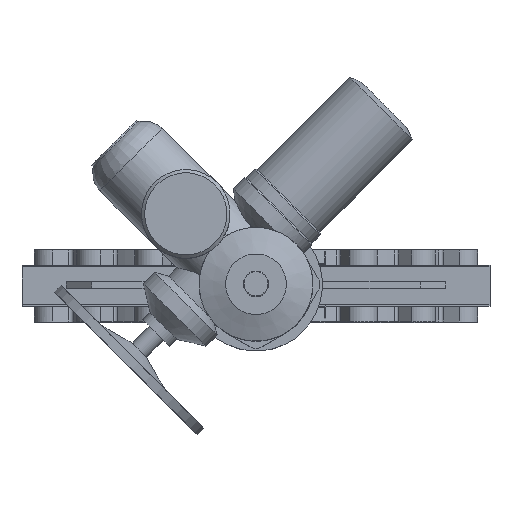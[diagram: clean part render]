
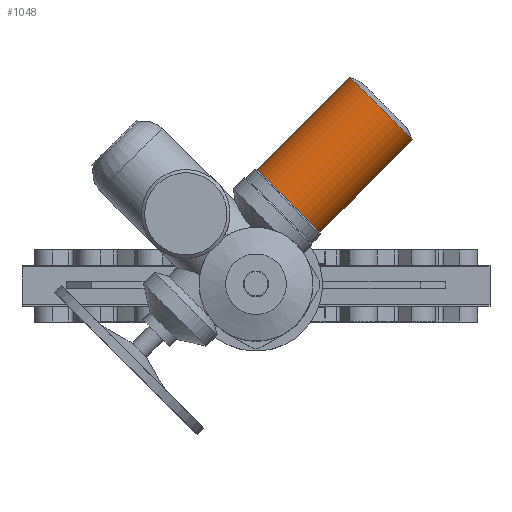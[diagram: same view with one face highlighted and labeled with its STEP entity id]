
A CAD part, top view. The second image highlights one B-rep face of the part: STEP entity #1048.
In plain terms, the highlighted cylindrical face has radius 70 mm (diameter 140 mm), a full revolution.
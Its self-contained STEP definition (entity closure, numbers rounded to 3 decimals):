
#1048=ADVANCED_FACE('',(#2110,#2112),#2114,.T.);
#2110=FACE_OUTER_BOUND('',#2111,.T.);
#2111=EDGE_LOOP('',(#5259));
#2112=FACE_OUTER_BOUND('',#2113,.T.);
#2113=EDGE_LOOP('',(#5260));
#2114=CYLINDRICAL_SURFACE('',#2115,70.);
#2115=AXIS2_PLACEMENT_3D('',#2116,#2117,#2118);
#2116=CARTESIAN_POINT('',(197.792,278.403,1588.));
#2117=DIRECTION('',(-0.707,-0.707,0.));
#2118=DIRECTION('',(0.,0.,1.));
#5259=ORIENTED_EDGE('',*,*,#7695,.T.);
#5260=ORIENTED_EDGE('',*,*,#7693,.F.);
#7693=EDGE_CURVE('',#9604,#9604,#9605,.T.);
#7695=EDGE_CURVE('',#9608,#9608,#9609,.T.);
#9604=VERTEX_POINT('',#12311);
#9605=CIRCLE('',#12312,70.);
#9608=VERTEX_POINT('',#12321);
#9609=CIRCLE('',#12322,70.);
#12311=CARTESIAN_POINT('',(51.482,132.093,1658.));
#12312=AXIS2_PLACEMENT_3D('',#12313,#12314,#12315);
#12313=CARTESIAN_POINT('',(51.482,132.093,1588.));
#12314=DIRECTION('',(-0.707,-0.707,0.));
#12315=DIRECTION('',(0.,0.,1.));
#12321=CARTESIAN_POINT('',(197.792,278.403,1658.));
#12322=AXIS2_PLACEMENT_3D('',#12323,#12324,#12325);
#12323=CARTESIAN_POINT('',(197.792,278.403,1588.));
#12324=DIRECTION('',(-0.707,-0.707,0.));
#12325=DIRECTION('',(0.,0.,1.));
